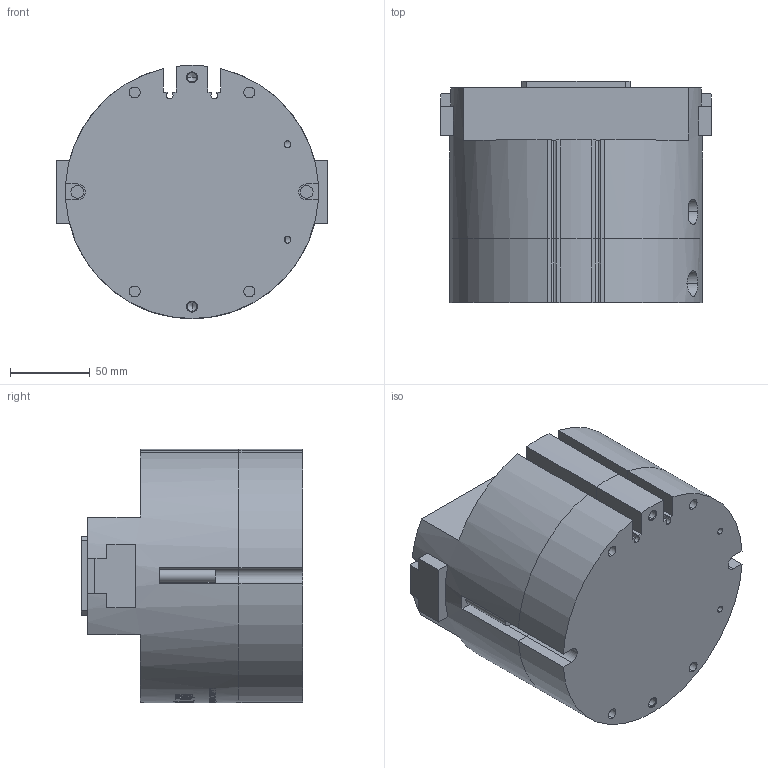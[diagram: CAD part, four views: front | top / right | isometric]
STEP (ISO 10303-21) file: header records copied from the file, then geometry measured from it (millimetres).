
FILE_DESCRIPTION (( 'STEP AP203' ), '1' );
FILE_NAME ('OPM-160-C2-MC&MA-原始檔-組合-W106.04.18.STEP', '2017-04-18T08:10:17', ( 'DanyaoCAD' ), ( '' ), 'SwSTEP 2.0', 'SolidWorks 2016', '' );
FILE_SCHEMA (( 'CONFIG_CONTROL_DESIGN' ));
Products named in the file (4): Fondello; Griffa; Corpo; OPM-160-C2-MC&MA-原始檔-組合-W106.04.18
Assembly tree (4 placements, depth 2):
  OPM-160-C2-MC&MA-原始檔-組合-W106.04.18
    Fondello
    Griffa  x2
    Corpo
Bounding box: 170 x 139 x 158.93 mm (x, y, z)
Volume: 2316724.4 mm3; surface area: 211985.4 mm2
Topology: 4 solids, 4 shells, 1022 faces, 2845 edges, 1886 vertices
Faces by surface type: bspline 665, plane 204, cylinder 133, cone 20
Entity records: 112180 total; most frequent: CARTESIAN_POINT 92098, ORIENTED_EDGE 5522, EDGE_CURVE 2761, B_SPLINE_CURVE_WITH_KNOTS 2049, VERTEX_POINT 1836, DIRECTION 1619, EDGE_LOOP 1069, FACE_OUTER_BOUND 991
